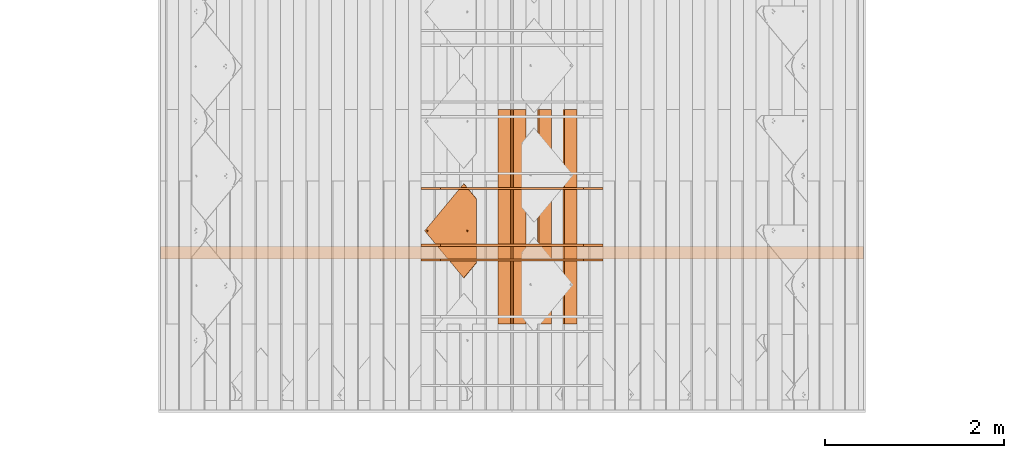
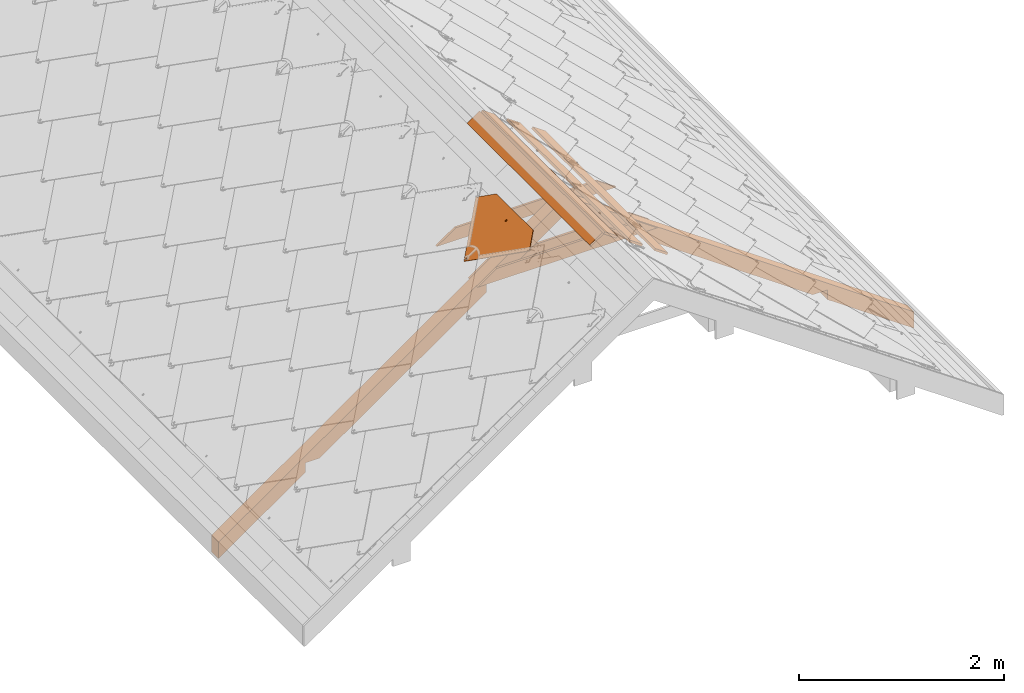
# One storey, part 32 of 151: 9 proxies, 1 element without a shape of its own.
"""IFC2X3 building model written with IfcOpenShell, lengths in millimetres."""

from ifc_helpers import new_model, entity, si_unit, converted_unit, derived_unit, direction, frame, frame_2d, origin, place, context, subcontext, project, spatial, polyline, rectangle, outline, extrude, faceted_brep, source, transform, mapped, material, material_list, type_object, type_shapes, element, aggregate, save


model = new_model("IFC2X3")

# Units and contexts
model_context = context("Model", 3, precision=0.01, world=origin(), true_north=direction((6.12303176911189e-17, 1.0)))
body_context = subcontext(model_context, "Body", "Model", "MODEL_VIEW")
ifc_project = project(units=[si_unit("LENGTHUNIT", "METRE", prefix="MILLI"), si_unit("AREAUNIT", "SQUARE_METRE"), si_unit("VOLUMEUNIT", "CUBIC_METRE"), converted_unit("PLANEANGLEUNIT", "DEGREE", entity("IfcRatioMeasure", 0.0174532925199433), si_unit("PLANEANGLEUNIT", "RADIAN"), dimensions=[0, 0, 0, 0, 0, 0, 0]), si_unit("MASSUNIT", "GRAM", prefix="KILO"), derived_unit("MASSDENSITYUNIT", [(si_unit("MASSUNIT", "GRAM", prefix="KILO"), 1), (si_unit("LENGTHUNIT", "METRE"), -3)]), si_unit("TIMEUNIT", "SECOND"), si_unit("FREQUENCYUNIT", "HERTZ"), si_unit("THERMODYNAMICTEMPERATUREUNIT", "DEGREE_CELSIUS"), derived_unit("THERMALTRANSMITTANCEUNIT", [(si_unit("MASSUNIT", "GRAM", prefix="KILO"), 1), (si_unit("THERMODYNAMICTEMPERATUREUNIT", "KELVIN"), -1), (si_unit("TIMEUNIT", "SECOND"), -3)]), derived_unit("VOLUMETRICFLOWRATEUNIT", [(si_unit("LENGTHUNIT", "METRE"), 3), (si_unit("TIMEUNIT", "SECOND"), -1)]), si_unit("ELECTRICCURRENTUNIT", "AMPERE"), si_unit("ELECTRICVOLTAGEUNIT", "VOLT"), si_unit("POWERUNIT", "WATT"), si_unit("FORCEUNIT", "NEWTON", prefix="KILO"), si_unit("ILLUMINANCEUNIT", "LUX"), si_unit("LUMINOUSFLUXUNIT", "LUMEN"), si_unit("LUMINOUSINTENSITYUNIT", "CANDELA"), derived_unit("USERDEFINED", [(si_unit("MASSUNIT", "GRAM", prefix="KILO"), -1), (si_unit("LENGTHUNIT", "METRE"), -2), (si_unit("TIMEUNIT", "SECOND"), 3), (si_unit("LUMINOUSFLUXUNIT", "LUMEN"), 1)]), derived_unit("LINEARVELOCITYUNIT", [(si_unit("LENGTHUNIT", "METRE"), 1), (si_unit("TIMEUNIT", "SECOND"), -1)]), si_unit("PRESSUREUNIT", "PASCAL"), derived_unit("USERDEFINED", [(si_unit("LENGTHUNIT", "METRE"), -2), (si_unit("MASSUNIT", "GRAM", prefix="KILO"), 1), (si_unit("TIMEUNIT", "SECOND"), -2)])], contexts=[model_context])

# Site, building, storey
site_placement = place(None, origin())
site = spatial("IfcSite", under=ifc_project, at=site_placement, Name="Default", CompositionType="ELEMENT")
building_placement = place(site_placement, origin())
building = spatial("IfcBuilding", under=site, at=building_placement, CompositionType="ELEMENT")
storey_placement = place(building_placement, origin())
storey = spatial("IfcBuildingStorey", under=building, at=storey_placement, Name="Level 1", CompositionType="ELEMENT", Elevation=0.0)

# Assembly, proxies
assembly_placement = place(storey_placement, origin())
assembly = element("IfcElementAssembly", 1, at=assembly_placement, inside=storey, Name="Structural Framing Assembly:Roof Construction Assembly", ObjectType="Structural Framing Assembly:Roof Construction Assembly", AssemblyPlace="NOTDEFINED", PredefinedType="USERDEFINED")
ifc_material_1 = material(Name="Wood - Generic - Wood For Showcase")
building_element_proxy_type_1 = type_object("IfcBuildingElementProxyType", Name="Structural Framing 1", PredefinedType="NOTDEFINED", material=ifc_material_1)
shared_shape_1 = source(origin(), body_context, "Body", "SweptSolid", [
    extrude(outline(polyline([(-929.245683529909, -1327.10037070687), (3863.2595049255, -1327.10037070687), (3975.29271103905, -1167.10037070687), (2778.93361405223, -1167.10037070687), (2713.54351952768, -1260.4871038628), (2580.17344271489, -1167.10037070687), (278.933614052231, -1167.10037070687), (213.543519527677, -1260.48710386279), (80.1734427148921, -1167.10037070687), (-817.212477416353, -1167.10037070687), (-1124.13653843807, -323.833443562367), (-1257.50661525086, -230.44671040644), (-1192.11652072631, -137.059977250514), (-1979.18689675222, 2025.39810840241), (-2112.55697356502, 2118.78484155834), (-2047.16687904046, 2212.17157471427), (-2456.34578886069, 3336.38138996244), (-2568.37899497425, 3176.38138996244), (-929.245683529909, -1327.10037070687)])), frame((1206.77890726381, 3785.55080214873, 1179.90959070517), z_axis=(0.0, 1.0, 0.0), x_axis=(0.819152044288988, 0.0, -0.573576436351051)), (0.0, 0.0, 1.0), 140.0),
])
type_shapes(building_element_proxy_type_1, [shared_shape_1])
proxy_1_placement = place(assembly_placement, frame((57.4878711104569, -8800.0, 0.0)))
proxy_1 = element("IfcBuildingElementProxy", 2, at=proxy_1_placement, type_object=building_element_proxy_type_1, material=ifc_material_1, Name="Structural Framing 12:Structural Framing 1", ObjectType="Structural Framing 12:Structural Framing 1", context=body_context, shape_type="MappedRepresentation", body=[
    mapped(shared_shape_1, transform((0.0, 0.0, 0.0), scale=1.0)),
])
building_element_proxy_type_2 = type_object("IfcBuildingElementProxyType", Name="Structural Framing 15", PredefinedType="NOTDEFINED", material=ifc_material_1)
shared_shape_2 = source(origin(), body_context, "Body", "SweptSolid", [
    extrude(rectangle(XDim=24.9999999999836, YDim=174.344679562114, at=frame_2d((2.97539770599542e-13, -4.2632564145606e-14), x_axis=(1.0, 0.0))), frame((1285.35601305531, 1525.55080214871, 2760.23940055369), z_axis=(0.0, 1.0, 0.0), x_axis=(0.573576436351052, 0.0, 0.819152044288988)), (0.0, 0.0, 1.0), 2400.0),
])
type_shapes(building_element_proxy_type_2, [shared_shape_2])
proxy_2_placement = place(assembly_placement, frame((57.4878711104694, -7270.0, 0.0)))
proxy_2 = element("IfcBuildingElementProxy", 3, at=proxy_2_placement, type_object=building_element_proxy_type_2, material=ifc_material_1, Name="Structural Framing 158:Structural Framing 15", ObjectType="Structural Framing 158:Structural Framing 15", context=body_context, shape_type="MappedRepresentation", body=[
    mapped(shared_shape_2, transform((0.0, 0.0, 0.0), scale=1.0)),
])
building_element_proxy_type_3 = type_object("IfcBuildingElementProxyType", Name="Structural Framing 15", PredefinedType="NOTDEFINED", material=ifc_material_1)
shared_shape_3 = source(origin(), body_context, "Body", "SweptSolid", [
    extrude(rectangle(XDim=24.9999999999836, YDim=174.344679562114, at=frame_2d((2.97539770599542e-13, -4.2632564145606e-14), x_axis=(1.0, 0.0))), frame((1285.35601305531, 1525.55080214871, 2760.23940055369), z_axis=(0.0, 1.0, 0.0), x_axis=(0.573576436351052, 0.0, 0.819152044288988)), (0.0, 0.0, 1.0), 2400.0),
])
type_shapes(building_element_proxy_type_3, [shared_shape_3])
proxy_3_placement = place(assembly_placement, frame((343.11747245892, -7270.0, -200.0)))
proxy_3 = element("IfcBuildingElementProxy", 4, at=proxy_3_placement, type_object=building_element_proxy_type_3, material=ifc_material_1, Name="Structural Framing 168:Structural Framing 15", ObjectType="Structural Framing 168:Structural Framing 15", context=body_context, shape_type="MappedRepresentation", body=[
    mapped(shared_shape_3, transform((0.0, 0.0, 0.0), scale=1.0)),
])
building_element_proxy_type_4 = type_object("IfcBuildingElementProxyType", Name="Structural Framing 15", PredefinedType="NOTDEFINED", material=ifc_material_1)
shared_shape_4 = source(origin(), body_context, "Body", "SweptSolid", [
    extrude(rectangle(XDim=24.9999999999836, YDim=174.344679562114, at=frame_2d((2.97539770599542e-13, -4.2632564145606e-14), x_axis=(1.0, 0.0))), frame((1285.35601305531, 1525.55080214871, 2760.23940055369), z_axis=(0.0, 1.0, 0.0), x_axis=(0.573576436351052, 0.0, 0.819152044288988)), (0.0, 0.0, 1.0), 2400.0),
])
type_shapes(building_element_proxy_type_4, [shared_shape_4])
proxy_4_placement = place(assembly_placement, frame((628.747073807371, -7270.0, -400.0)))
proxy_4 = element("IfcBuildingElementProxy", 5, at=proxy_4_placement, type_object=building_element_proxy_type_4, material=ifc_material_1, Name="Structural Framing 178:Structural Framing 15", ObjectType="Structural Framing 178:Structural Framing 15", context=body_context, shape_type="MappedRepresentation", body=[
    mapped(shared_shape_4, transform((0.0, 0.0, 0.0), scale=1.0)),
])
building_element_proxy_type_5 = type_object("IfcBuildingElementProxyType", Name="Structural Framing 15", PredefinedType="NOTDEFINED", material=ifc_material_1)
shared_shape_5 = source(origin(), body_context, "Body", "SweptSolid", [
    extrude(rectangle(XDim=24.9999999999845, YDim=174.344679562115, at=frame_2d((-1.77635683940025e-13, -4.54747350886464e-13), x_axis=(0.0, 1.0))), frame((1128.20180147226, 1525.55080214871, 2760.23940055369), z_axis=(0.0, 1.0, 0.0), x_axis=(-0.819152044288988, 0.0, -0.573576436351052)), (0.0, 0.0, 1.0), 2400.0),
])
type_shapes(building_element_proxy_type_5, [shared_shape_5])
proxy_5_placement = place(assembly_placement, frame((57.4878711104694, -7270.0, 0.0)))
proxy_5 = element("IfcBuildingElementProxy", 6, at=proxy_5_placement, type_object=building_element_proxy_type_5, material=ifc_material_1, Name="Structural Framing 18:Structural Framing 15", ObjectType="Structural Framing 18:Structural Framing 15", context=body_context, shape_type="MappedRepresentation", body=[
    mapped(shared_shape_5, transform((0.0, 0.0, 0.0), scale=1.0)),
])
building_element_proxy_type_6 = type_object("IfcBuildingElementProxyType", Name="Structural Framing 296", PredefinedType="NOTDEFINED", material=ifc_material_1)
shared_shape_6 = source(origin(), body_context, "Body", "SweptSolid", [
    extrude(outline(polyline([(-1014.04699829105, -75.0), (1014.04699829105, -75.0), (799.824797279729, 75.0), (-799.824797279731, 75.0), (-1014.04699829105, -75.0)])), frame((1206.77890726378, 3760.55080214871, 2164.95664769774), z_axis=(0.0, 1.0, 0.0), x_axis=(-1.0, 0.0, 0.0)), (0.0, 0.0, 1.0), 24.9999999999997),
])
type_shapes(building_element_proxy_type_6, [shared_shape_6])
proxy_6_placement = place(assembly_placement, frame((57.4878711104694, -8000.0, 0.0)))
proxy_6 = element("IfcBuildingElementProxy", 7, at=proxy_6_placement, type_object=building_element_proxy_type_6, material=ifc_material_1, Name="Structural Framing 315:Structural Framing 296", ObjectType="Structural Framing 315:Structural Framing 296", context=body_context, shape_type="MappedRepresentation", body=[
    mapped(shared_shape_6, transform((0.0, 0.0, 0.0), scale=1.0)),
])
building_element_proxy_type_7 = type_object("IfcBuildingElementProxyType", Name="Structural Framing 296", PredefinedType="NOTDEFINED", material=ifc_material_1)
shared_shape_7 = source(origin(), body_context, "Body", "SweptSolid", [
    extrude(outline(polyline([(-1014.04699829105, -75.0), (1014.04699829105, -75.0), (799.824797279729, 75.0), (-799.824797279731, 75.0), (-1014.04699829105, -75.0)])), frame((1206.77890726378, 3760.55080214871, 2164.95664769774), z_axis=(0.0, 1.0, 0.0), x_axis=(-1.0, 0.0, 0.0)), (0.0, 0.0, 1.0), 24.9999999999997),
])
type_shapes(building_element_proxy_type_7, [shared_shape_7])
proxy_7_placement = place(assembly_placement, frame((57.4878711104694, -8800.0, 0.0)))
proxy_7 = element("IfcBuildingElementProxy", 8, at=proxy_7_placement, type_object=building_element_proxy_type_7, material=ifc_material_1, Name="Structural Framing 317:Structural Framing 296", ObjectType="Structural Framing 317:Structural Framing 296", context=body_context, shape_type="MappedRepresentation", body=[
    mapped(shared_shape_7, transform((0.0, 0.0, 0.0), scale=1.0)),
])
building_element_proxy_type_8 = type_object("IfcBuildingElementProxyType", Name="Structural Framing 296", PredefinedType="NOTDEFINED", material=ifc_material_1)
shared_shape_8 = source(origin(), body_context, "Body", "SweptSolid", [
    extrude(outline(polyline([(-1014.04699829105, -75.0), (1014.04699829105, -75.0), (799.824797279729, 75.0), (-799.824797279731, 75.0), (-1014.04699829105, -75.0)])), frame((1206.77890726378, 2325.55080214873, 2164.95664769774), z_axis=(0.0, 1.0, 0.0), x_axis=(-1.0, 0.0, 0.0)), (0.0, 0.0, 1.0), 25.0),
])
type_shapes(building_element_proxy_type_8, [shared_shape_8])
proxy_8_placement = place(assembly_placement, frame((57.4878711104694, -7200.0, 0.0)))
proxy_8 = element("IfcBuildingElementProxy", 9, at=proxy_8_placement, type_object=building_element_proxy_type_8, material=ifc_material_1, Name="Structural Framing 318:Structural Framing 296", ObjectType="Structural Framing 318:Structural Framing 296", context=body_context, shape_type="MappedRepresentation", body=[
    mapped(shared_shape_8, transform((0.0, 0.0, 0.0), scale=1.0)),
])
aggregate(assembly, [proxy_1, proxy_2, proxy_3, proxy_4, proxy_5, proxy_6, proxy_7, proxy_8])

# Proxy
ifc_material_2 = material(Name="Rubber - Sunstyle - Black")
ifc_material_3 = material(Name="Glass - Sunstyle - Tainted Black")
ifc_material_list_1 = material_list([ifc_material_2, ifc_material_3])
ifc_material_list_2 = material_list([ifc_material_2, ifc_material_3])
building_element_proxy_type_9 = type_object("IfcBuildingElementProxyType", Name="Shingle Top - Black", PredefinedType="NOTDEFINED", material=ifc_material_list_2)
shared_shape_9 = source(origin(), body_context, "Body", "Brep", [
    faceted_brep([(-518.396436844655, -96.9865733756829, 16.4476231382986), (-518.396436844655, -96.9614556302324, 17.9474128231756), (-526.881123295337, -88.4767691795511, 17.8053154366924), (-526.881123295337, -88.5018869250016, 16.3055257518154), (-376.996804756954, 61.3404039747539, 13.7960402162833), (-368.512118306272, 52.8557175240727, 13.9381376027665), (-376.996804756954, 61.3655217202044, 15.2958299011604), (-368.512118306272, 52.8808352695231, 15.4379272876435)], [[[0, 1, 2, 3]], [[0, 3, 4, 5]], [[3, 2, 6, 4]], [[2, 1, 7, 6]], [[1, 0, 5, 7]], [[5, 4, 6, 7]]]),
    faceted_brep([(0.166366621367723, -33.6374645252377, -4.47296585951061), (-5.6078362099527, -36.9707346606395, -4.4171418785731), (-5.60783620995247, -36.6024255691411, 17.5747274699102), (0.166366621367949, -33.2691554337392, 17.5189034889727), (-5.60783620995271, -43.6372749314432, -4.30549391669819), (-5.60783620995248, -43.2689658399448, 17.6863754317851), (0.166366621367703, -46.9705450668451, -4.24966993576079), (0.166366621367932, -46.6022359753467, 17.7421994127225), (5.94056945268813, -43.6372749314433, -4.30549391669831), (5.94056945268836, -43.2689658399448, 17.686375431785), (5.94056945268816, -36.9707346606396, -4.41714187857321), (5.94056945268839, -36.6024255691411, 17.5747274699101), (-8.43733754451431, -48.5381935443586, 17.774621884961), (0.16636662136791, -52.1014648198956, 17.8342978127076), (-12.0011084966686, -39.9356957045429, 17.6305514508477), (-8.43733754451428, -31.3331978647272, 17.4864810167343), (0.166366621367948, -27.7699265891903, 17.4268050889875), (8.77007078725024, -31.3331978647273, 17.4864810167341), (12.3338417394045, -39.935695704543, 17.6305514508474), (8.77007078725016, -48.5381935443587, 17.7746218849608), (-11.1578780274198, -37.6406185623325, 19.9433933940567), (-9.59010793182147, -39.8646808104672, 21.8708760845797), (0.166366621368, -32.5516055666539, 22.5035764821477), (0.166366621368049, -31.3111079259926, 21.9232298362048), (0.166366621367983, -29.1535570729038, 20.9138547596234), (0.166366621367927, -51.5454208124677, 19.1093557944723), (0.166366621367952, -50.6018442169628, 21.273060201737), (0.166366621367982, -47.1524685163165, 22.7481046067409), (0.166366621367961, -28.2829626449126, 18.7197675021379), (-6.15687907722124, -43.5022527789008, 22.6869725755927), (-6.15687907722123, -36.2018213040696, 22.5647085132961), (11.4906112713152, -42.1520387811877, 20.0189484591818), (10.0152467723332, -40.9390872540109, 21.7920079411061), (6.48961231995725, -36.2018213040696, 22.564708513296), (6.48961231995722, -43.5022527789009, 22.6869725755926), (-6.15687907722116, -43.3682243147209, 30.68986075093), (0.166366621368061, -47.0184400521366, 30.7509927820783), (0.166366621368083, -39.7180085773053, 30.6287287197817), (-6.15687907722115, -36.0677928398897, 30.5675966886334), (6.48961231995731, -43.368224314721, 30.6898607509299), (6.48961231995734, -36.0677928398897, 30.5675966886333), (0.166366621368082, -32.417577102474, 30.5064646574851), (0.166366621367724, -40.3040047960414, -4.36131789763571)], [[[0, 1, 2, 3]], [[1, 4, 5, 2]], [[4, 6, 7, 5]], [[6, 8, 9, 7]], [[8, 10, 11, 9]], [[10, 0, 3, 11]], [[12, 7, 13]], [[7, 12, 5]], [[14, 5, 12]], [[5, 14, 2]], [[15, 2, 14]], [[3, 2, 15]], [[15, 16, 3]], [[16, 17, 3]], [[11, 3, 17]], [[11, 17, 18]], [[9, 11, 18]], [[18, 19, 9]], [[7, 9, 19]], [[19, 13, 7]], [[20, 14, 12]], [[21, 22, 23, 24]], [[24, 20, 21]], [[25, 20, 12]], [[26, 27, 21]], [[15, 14, 20]], [[12, 13, 25]], [[20, 28, 15]], [[28, 20, 24]], [[21, 27, 29]], [[21, 29, 30]], [[26, 21, 20]], [[20, 25, 26]], [[15, 28, 16]], [[21, 30, 22]], [[31, 18, 17]], [[28, 31, 17]], [[32, 27, 26]], [[26, 31, 32]], [[26, 25, 31]], [[25, 19, 31]], [[17, 16, 28]], [[31, 19, 18]], [[24, 31, 28]], [[33, 34, 32]], [[23, 22, 33]], [[24, 32, 31]], [[27, 32, 34]], [[32, 23, 33]], [[19, 25, 13]], [[32, 24, 23]], [[35, 36, 37]], [[37, 38, 35]], [[36, 39, 37]], [[40, 37, 39]], [[37, 40, 41]], [[37, 41, 38]], [[42, 6, 4]], [[4, 1, 42]], [[1, 0, 42]], [[42, 8, 6]], [[0, 10, 42]], [[8, 42, 10]], [[22, 30, 38, 41]], [[30, 29, 35, 38]], [[29, 27, 36, 35]], [[27, 34, 39, 36]], [[34, 33, 40, 39]], [[33, 22, 41, 40]]]),
    faceted_brep([(0.0, -573.927138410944, 4.00636906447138), (-5.77420283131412, -577.260408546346, 4.0621930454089), (-5.77420283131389, -576.892099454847, 26.0540623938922), (0.0, -573.558829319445, 25.9982384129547), (-5.77420283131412, -583.926948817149, 4.1738410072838), (-5.7742028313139, -583.558639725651, 26.1657103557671), (0.0, -587.260218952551, 4.2296649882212), (0.0, -586.891909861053, 26.2215343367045), (5.77420283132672, -583.926948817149, 4.17384100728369), (5.77420283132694, -583.558639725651, 26.165710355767), (5.77420283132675, -577.260408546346, 4.06219304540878), (5.77420283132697, -576.892099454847, 26.0540623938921), (-8.60370416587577, -588.827867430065, 26.253956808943), (0.0, -592.391138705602, 26.3136327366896), (-12.1674751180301, -580.225369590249, 26.1098863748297), (-8.60370416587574, -571.622871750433, 25.9658159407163), (0.0, -568.059600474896, 25.9061400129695), (8.60370416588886, -571.622871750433, 25.9658159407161), (12.1674751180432, -580.225369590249, 26.1098863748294), (8.60370416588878, -588.827867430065, 26.2539568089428), (-11.3242446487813, -577.930292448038, 28.4227283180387), (-9.75647455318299, -580.154354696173, 30.3502110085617), (0.0, -572.84127945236, 30.9829114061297), (0.0, -571.600781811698, 30.4025647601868), (0.0, -569.44323095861, 29.3931896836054), (0.0, -591.835094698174, 27.5886907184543), (0.0, -590.891518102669, 29.752395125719), (0.0, -587.442142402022, 31.227439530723), (0.0, -568.572636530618, 27.1991024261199), (-6.32324569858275, -583.791926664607, 31.1663074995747), (-6.32324569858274, -576.491495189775, 31.0440434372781), (11.3242446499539, -582.441712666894, 28.4982833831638), (9.84888015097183, -581.228761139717, 30.2713428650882), (6.32324569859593, -576.491495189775, 31.044043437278), (6.32324569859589, -583.791926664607, 31.1663074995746), (-6.32324569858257, -583.657898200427, 39.169195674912), (0.0, -587.308113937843, 39.2303277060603), (0.0, -580.007682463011, 39.1080636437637), (-6.32324569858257, -576.357466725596, 39.0469316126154), (6.32324569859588, -583.657898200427, 39.1691956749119), (6.32324569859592, -576.357466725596, 39.0469316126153), (0.0, -572.70725098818, 38.9857995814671), (0.0, -580.593678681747, 4.11801702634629)], [[[0, 1, 2, 3]], [[1, 4, 5, 2]], [[4, 6, 7, 5]], [[6, 8, 9, 7]], [[8, 10, 11, 9]], [[10, 0, 3, 11]], [[12, 7, 13]], [[7, 12, 5]], [[14, 5, 12]], [[5, 14, 2]], [[15, 2, 14]], [[3, 2, 15]], [[15, 16, 3]], [[16, 17, 3]], [[11, 3, 17]], [[11, 17, 18]], [[9, 11, 18]], [[18, 19, 9]], [[7, 9, 19]], [[19, 13, 7]], [[20, 14, 12]], [[21, 22, 23, 24]], [[24, 20, 21]], [[25, 20, 12]], [[26, 27, 21]], [[15, 14, 20]], [[12, 13, 25]], [[20, 28, 15]], [[28, 20, 24]], [[21, 27, 29]], [[21, 29, 30]], [[26, 21, 20]], [[20, 25, 26]], [[15, 28, 16]], [[21, 30, 22]], [[31, 18, 17]], [[28, 31, 17]], [[32, 27, 26]], [[26, 31, 32]], [[26, 25, 31]], [[25, 19, 31]], [[17, 16, 28]], [[31, 19, 18]], [[24, 31, 28]], [[33, 34, 32]], [[23, 22, 33]], [[24, 32, 31]], [[27, 32, 34]], [[32, 23, 33]], [[19, 25, 13]], [[32, 24, 23]], [[35, 36, 37]], [[37, 38, 35]], [[36, 39, 37]], [[40, 37, 39]], [[37, 40, 41]], [[37, 41, 38]], [[42, 6, 4]], [[4, 1, 42]], [[1, 0, 42]], [[42, 8, 6]], [[0, 10, 42]], [[8, 42, 10]], [[22, 30, 38, 41]], [[30, 29, 35, 38]], [[29, 27, 36, 35]], [[27, 34, 39, 36]], [[34, 33, 40, 39]], [[33, 22, 41, 40]]]),
    faceted_brep([(518.482751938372, -96.8754983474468, 17.9260478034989), (526.967438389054, -88.3908118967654, 17.7839504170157), (526.967438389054, -88.3656941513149, 19.2837401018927), (518.482751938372, -96.8503806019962, 19.4258374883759), (349.749400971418, 71.8105397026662, 15.1009763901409), (358.234087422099, 80.2952261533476, 14.9588790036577), (358.234087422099, 80.3203438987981, 16.4586686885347), (349.749400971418, 71.8356574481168, 16.6007660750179)], [[[0, 1, 2, 3]], [[1, 0, 4, 5]], [[2, 1, 5, 6]], [[3, 2, 6, 7]], [[0, 3, 7, 4]], [[4, 7, 6, 5]]]),
    faceted_brep([(358.234087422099, 80.2952261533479, 14.9588790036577), (6.94661128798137, -35.8890860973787, 16.9046771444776), (7.74581466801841, -37.8182632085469, 16.9369860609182), (5.67526230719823, -34.2324641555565, 16.8769328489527), (8.01840805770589, -39.8885252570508, 16.9716577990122), (7.74581466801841, -41.9587873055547, 17.0063295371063), (6.94661128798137, -43.8879644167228, 17.0386384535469), (526.967438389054, -88.3908118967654, 17.7839504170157), (4.01840805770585, -32.9612934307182, 16.855643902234), (2.08896041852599, -32.1622021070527, 16.8422611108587), (0.0184080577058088, -31.8896469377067, 16.8376964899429), (-358.233442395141, 80.2952261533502, 14.9588790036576), (-2.05214430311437, -32.1622021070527, 16.8422611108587), (-3.98159194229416, -32.9612934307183, 16.855643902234), (-5.63844619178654, -34.2324641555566, 16.8769328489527), (-6.90979517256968, -35.8890860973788, 16.9046771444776), (-7.70899855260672, -37.8182632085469, 16.9369860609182), (-7.98159194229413, -39.8885252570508, 16.9716577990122), (-7.70899855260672, -41.9587873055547, 17.0063295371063), (-6.90979517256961, -43.8879644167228, 17.0386384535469), (-526.966793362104, -88.390811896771, 17.7839504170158), (-5.63844619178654, -45.544586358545, 17.0663827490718), (-5.6568542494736, -574.226981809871, 25.9204974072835), (-6.92820323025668, -575.883603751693, 25.9482417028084), (-7.72740661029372, -577.812780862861, 25.980550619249), (-8.0, -579.883042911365, 26.015222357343), (-7.72740661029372, -581.953304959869, 26.049894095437), (0.000322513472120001, -615.210165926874, 26.6068637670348), (7.72740661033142, -581.953304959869, 26.049894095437), (6.92820323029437, -583.882482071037, 26.0822030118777), (5.65685424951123, -585.53910401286, 26.1099473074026), (4.0, -586.810274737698, 26.1312362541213), (2.070552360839, -587.609366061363, 26.1446190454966), (0.0, -587.881921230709, 26.1491836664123), (-2.0705523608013, -587.609366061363, 26.1446190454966), (-4.0, -586.810274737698, 26.1312362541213), (-5.65685424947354, -585.53910401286, 26.1099473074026), (-6.92820323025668, -583.882482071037, 26.0822030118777), (-4.0, -572.955811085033, 25.8992084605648), (-3.98159194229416, -46.8157570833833, 17.0876716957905), (-2.07055236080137, -572.156719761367, 25.8858256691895), (-2.05214430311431, -47.614848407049, 17.1010544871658), (0.0, -571.884164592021, 25.8812610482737), (0.0184080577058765, -47.8874035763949, 17.1056191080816), (2.07055236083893, -572.156719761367, 25.8858256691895), (2.08896041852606, -47.6148484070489, 17.1010544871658), (4.0, -572.955811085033, 25.8992084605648), (4.01840805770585, -46.8157570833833, 17.0876716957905), (5.65685424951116, -574.226981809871, 25.9204974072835), (5.67526230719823, -45.544586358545, 17.0663827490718), (6.92820323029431, -575.883603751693, 25.9482417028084), (7.72740661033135, -577.812780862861, 25.980550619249), (8.0, -579.883042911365, 26.015222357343), (-358.233442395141, 80.1947551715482, 8.9597202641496), (-6.90979517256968, -35.9895570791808, 10.9055184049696), (-7.70899855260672, -37.9187341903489, 10.9378273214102), (-5.63844619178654, -34.3329351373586, 10.8777741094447), (-7.98159194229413, -39.9889962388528, 10.9724990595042), (-7.70899855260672, -42.0592582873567, 11.0071707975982), (-6.90979517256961, -43.9884353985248, 11.0394797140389), (-526.966793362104, -88.4912828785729, 11.7847916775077), (-3.98159194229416, -33.0617644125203, 10.856485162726), (-2.05214430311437, -32.2626730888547, 10.8431023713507), (0.0184080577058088, -31.9901179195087, 10.8385377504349), (358.234087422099, 80.1947551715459, 8.95972026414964), (2.08896041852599, -32.2626730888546, 10.8431023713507), (4.01840805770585, -33.0617644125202, 10.856485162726), (5.67526230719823, -34.3329351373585, 10.8777741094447), (6.94661128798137, -35.9895570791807, 10.9055184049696), (7.74581466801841, -37.9187341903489, 10.9378273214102), (8.01840805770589, -39.9889962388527, 10.9724990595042), (7.74581466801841, -42.0592582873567, 11.0071707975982), (6.94661128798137, -43.9884353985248, 11.0394797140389), (526.967438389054, -88.4912828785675, 11.7847916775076), (5.67526230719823, -45.645057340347, 11.0672240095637), (5.65685424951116, -574.327452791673, 19.9213386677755), (6.92820323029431, -575.984074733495, 19.9490829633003), (7.72740661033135, -577.913251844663, 19.981391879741), (8.0, -579.983513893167, 20.016063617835), (7.72740661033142, -582.053775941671, 20.050735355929), (0.000322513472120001, -615.310636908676, 20.6077050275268), (-7.72740661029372, -582.053775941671, 20.050735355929), (-6.92820323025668, -583.982953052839, 20.0830442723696), (-5.65685424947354, -585.639574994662, 20.1107885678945), (-4.0, -586.9107457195, 20.1320775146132), (-2.0705523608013, -587.709837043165, 20.1454603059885), (0.0, -587.982392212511, 20.1500249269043), (2.070552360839, -587.709837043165, 20.1454603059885), (4.0, -586.9107457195, 20.1320775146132), (5.65685424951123, -585.639574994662, 20.1107885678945), (6.92820323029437, -583.982953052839, 20.0830442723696), (4.01840805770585, -46.9162280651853, 11.0885129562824), (4.0, -573.056282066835, 19.9000497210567), (2.08896041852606, -47.7153193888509, 11.1018957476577), (2.07055236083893, -572.257190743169, 19.8866669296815), (0.0184080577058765, -47.9878745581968, 11.1064603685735), (0.0, -571.984635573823, 19.8821023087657), (-2.05214430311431, -47.7153193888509, 11.1018957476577), (-2.07055236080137, -572.257190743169, 19.8866669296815), (-3.98159194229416, -46.9162280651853, 11.0885129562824), (-4.0, -573.056282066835, 19.9000497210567), (-5.63844619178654, -45.645057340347, 11.0672240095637), (-5.6568542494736, -574.327452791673, 19.9213386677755), (-6.92820323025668, -575.984074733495, 19.9490829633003), (-7.72740661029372, -577.913251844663, 19.981391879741), (-8.0, -579.983513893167, 20.016063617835)], [[[0, 1, 2]], [[1, 0, 3]], [[0, 2, 4]], [[4, 5, 0]], [[5, 6, 0]], [[7, 0, 6]], [[8, 3, 0]], [[9, 8, 0]], [[10, 9, 0]], [[0, 11, 10]], [[12, 10, 11]], [[13, 12, 11]], [[14, 13, 11]], [[11, 15, 14]], [[15, 11, 16]], [[16, 11, 17]], [[11, 18, 17]], [[18, 11, 19]], [[11, 20, 19]], [[19, 20, 21]], [[20, 22, 21]], [[23, 22, 20]], [[24, 23, 20]], [[24, 20, 25]], [[26, 25, 20]], [[27, 26, 20]], [[7, 28, 27]], [[29, 27, 28]], [[27, 29, 30]], [[30, 31, 27]], [[31, 32, 27]], [[27, 32, 33]], [[27, 33, 34]], [[34, 35, 27]], [[27, 35, 36]], [[36, 37, 27]], [[37, 26, 27]], [[38, 21, 22]], [[38, 39, 21]], [[38, 40, 39]], [[40, 41, 39]], [[40, 42, 41]], [[41, 42, 43]], [[44, 43, 42]], [[44, 45, 43]], [[45, 44, 46]], [[46, 47, 45]], [[46, 48, 47]], [[48, 49, 47]], [[50, 7, 48]], [[48, 7, 49]], [[7, 50, 51]], [[7, 51, 52]], [[52, 28, 7]], [[7, 6, 49]], [[53, 54, 55]], [[54, 53, 56]], [[53, 55, 57]], [[58, 53, 57]], [[59, 53, 58]], [[60, 53, 59]], [[61, 56, 53]], [[62, 61, 53]], [[53, 63, 62]], [[63, 53, 64]], [[65, 63, 64]], [[66, 65, 64]], [[64, 67, 66]], [[67, 64, 68]], [[68, 64, 69]], [[70, 69, 64]], [[71, 70, 64]], [[72, 71, 64]], [[72, 64, 73]], [[72, 73, 74]], [[74, 73, 75]], [[73, 76, 75]], [[76, 73, 77]], [[77, 73, 78]], [[79, 78, 73]], [[79, 73, 80]], [[60, 81, 80]], [[80, 81, 82]], [[80, 82, 83]], [[83, 84, 80]], [[84, 85, 80]], [[85, 86, 80]], [[80, 86, 87]], [[80, 87, 88]], [[80, 88, 89]], [[79, 80, 90]], [[80, 89, 90]], [[75, 91, 74]], [[75, 92, 91]], [[92, 93, 91]], [[93, 92, 94]], [[93, 94, 95]], [[96, 95, 94]], [[97, 95, 96]], [[96, 98, 97]], [[98, 99, 97]], [[98, 100, 99]], [[100, 101, 99]], [[100, 102, 101]], [[60, 101, 102]], [[103, 60, 102]], [[103, 104, 60]], [[104, 105, 60]], [[105, 81, 60]], [[59, 101, 60]], [[27, 20, 60, 80]], [[7, 27, 80, 73]], [[0, 7, 73, 64]], [[25, 105, 104, 24]], [[24, 104, 103, 23]], [[38, 22, 102, 100]], [[102, 22, 23, 103]], [[40, 38, 100, 98]], [[40, 98, 96, 42]], [[42, 96, 94, 44]], [[44, 94, 92, 46]], [[50, 48, 75, 76]], [[75, 48, 46, 92]], [[51, 50, 76, 77]], [[51, 77, 78, 52]], [[52, 78, 79, 28]], [[28, 79, 90, 29]], [[31, 30, 89, 88]], [[29, 90, 89, 30]], [[87, 32, 31, 88]], [[32, 87, 86, 33]], [[34, 33, 86, 85]], [[34, 85, 84, 35]], [[37, 36, 83, 82]], [[35, 84, 83, 36]], [[37, 82, 81, 26]], [[26, 81, 105, 25]], [[17, 57, 55, 16]], [[16, 55, 54, 15]], [[13, 14, 56, 61]], [[56, 14, 15, 54]], [[12, 13, 61, 62]], [[12, 62, 63, 10]], [[10, 63, 65, 9]], [[9, 65, 66, 8]], [[1, 3, 67, 68]], [[67, 3, 8, 66]], [[2, 1, 68, 69]], [[2, 69, 70, 4]], [[4, 70, 71, 5]], [[5, 71, 72, 6]], [[47, 49, 74, 91]], [[74, 49, 6, 72]], [[45, 47, 91, 93]], [[45, 93, 95, 43]], [[43, 95, 97, 41]], [[41, 97, 99, 39]], [[19, 21, 101, 59]], [[101, 21, 39, 99]], [[18, 19, 59, 58]], [[18, 58, 57, 17]], [[11, 0, 64, 53]], [[20, 11, 53, 60]]]),
])
type_shapes(building_element_proxy_type_9, [shared_shape_9])
proxy_9_placement = place(storey_placement, frame((807.857250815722, -4701.35081929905, 2510.93797301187), z_axis=(-0.57357643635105, 0.0, 0.819152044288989), x_axis=(0.0, -1.0, 0.0)))
element("IfcBuildingElementProxy", 10, at=proxy_9_placement, inside=storey, type_object=building_element_proxy_type_9, material=ifc_material_list_1, Name="Roofing_Panels_SunStyle_Tile_Shingle-Top:Shingle Top - Black", ObjectType="Roofing_Panels_SunStyle_Tile_Shingle-Top:Shingle Top - Black", context=body_context, shape_type="MappedRepresentation", body=[
    mapped(shared_shape_9, transform((0.0, 0.0, 0.0), scale=1.0)),
])

save(model, "model.ifc")
